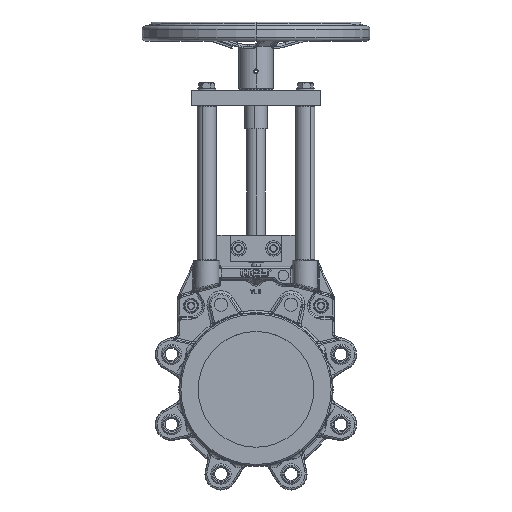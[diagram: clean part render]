
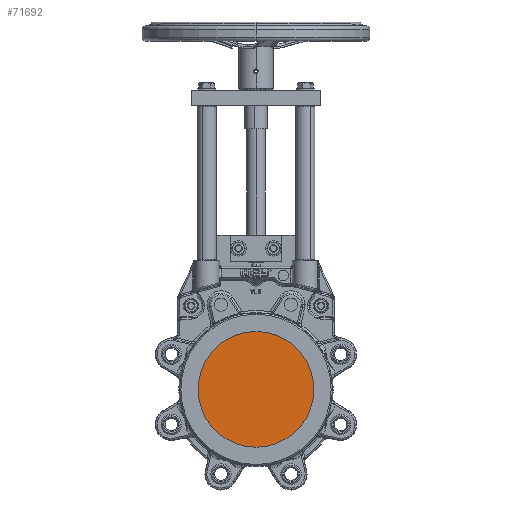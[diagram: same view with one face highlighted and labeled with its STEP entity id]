
A CAD part, top view. The second image highlights one B-rep face of the part: STEP entity #71692.
In plain terms, the highlighted planar face has unit normal (0, 0, 1).
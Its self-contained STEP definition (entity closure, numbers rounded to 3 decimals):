
#925 = CARTESIAN_POINT ( 'NONE',  ( -76.2, 0., -0.25 ) ) ;
#4878 = DIRECTION ( 'NONE',  ( 1., 0., 0. ) ) ;
#5968 = DIRECTION ( 'NONE',  ( 0., 0., 1. ) ) ;
#7115 = CARTESIAN_POINT ( 'NONE',  ( 0., 0., -0.25 ) ) ;
#12155 = PLANE ( 'NONE',  #12389 ) ;
#12389 = AXIS2_PLACEMENT_3D ( 'NONE', #46968, #40060, #30423 ) ;
#13661 = AXIS2_PLACEMENT_3D ( 'NONE', #104819, #105420, #71705 ) ;
#14924 = EDGE_CURVE ( 'NONE', #70379, #54575, #102886, .T. ) ;
#22775 = ORIENTED_EDGE ( 'NONE', *, *, #14924, .T. ) ;
#30423 = DIRECTION ( 'NONE',  ( -1., 0., 0. ) ) ;
#40060 = DIRECTION ( 'NONE',  ( 0., 0., -1. ) ) ;
#42175 = EDGE_CURVE ( 'NONE', #54575, #70379, #50087, .T. ) ;
#46968 = CARTESIAN_POINT ( 'NONE',  ( 73., 203., -0.25 ) ) ;
#50087 = CIRCLE ( 'NONE', #68302, 76.2 ) ;
#52210 = ORIENTED_EDGE ( 'NONE', *, *, #42175, .T. ) ;
#54575 = VERTEX_POINT ( 'NONE', #96707 ) ;
#57159 = FACE_OUTER_BOUND ( 'NONE', #76206, .T. ) ;
#68302 = AXIS2_PLACEMENT_3D ( 'NONE', #7115, #5968, #4878 ) ;
#70379 = VERTEX_POINT ( 'NONE', #925 ) ;
#71692 = ADVANCED_FACE ( 'NONE', ( #57159 ), #12155, .F. ) ;
#71705 = DIRECTION ( 'NONE',  ( 1., 0., 0. ) ) ;
#76206 = EDGE_LOOP ( 'NONE', ( #52210, #22775 ) ) ;
#96707 = CARTESIAN_POINT ( 'NONE',  ( 76.2, 0., -0.25 ) ) ;
#102886 = CIRCLE ( 'NONE', #13661, 76.2 ) ;
#104819 = CARTESIAN_POINT ( 'NONE',  ( 0., 0., -0.25 ) ) ;
#105420 = DIRECTION ( 'NONE',  ( 0., 0., 1. ) ) ;
